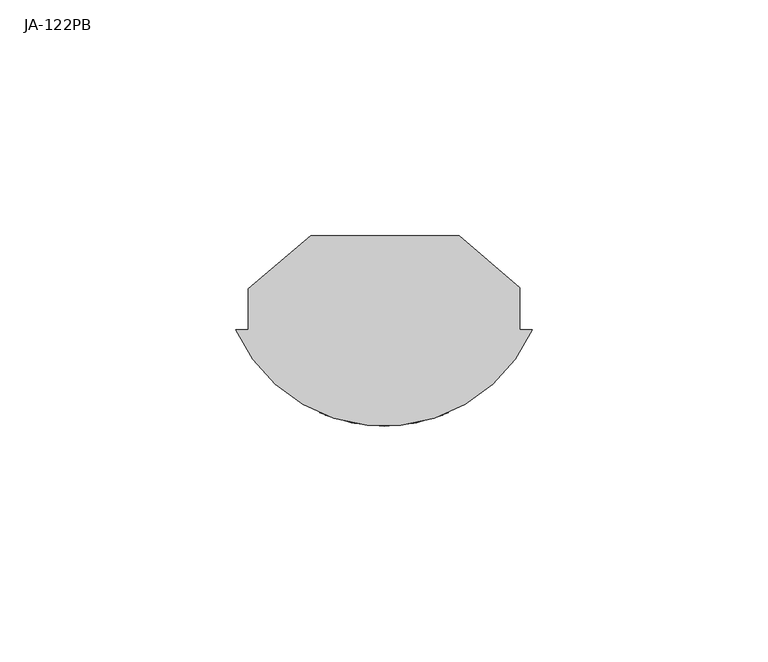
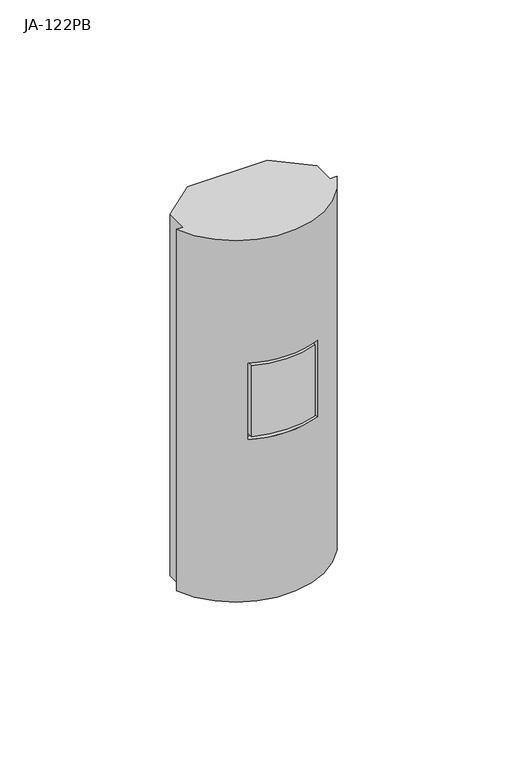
"""IFC4 building model written with IfcOpenShell, lengths in millimetres: proxy geometry, PIR detektory.CC : JA-122PB."""

from ifc_helpers import new_model, si_unit, frame, origin, place, context, project, spatial, circle_curve, source, transform, mapped, element, save
from ifc_brep_helpers import plane_surface, cylinder_surface, advanced_brep


def ja_122pb_a7b72314(model_context):
    return source(origin(), model_context, "Body", "AdvancedBrep", [
        advanced_brep(
        [(-31.5, -20.0, 95.0), (31.5, -20.0, 95.0), (28.8127665, -20.0, 95.0), (28.8127665, -11.0753807, 95.0), (15.9214911, 0.0, 95.0), (-15.5, 0.0, 95.0), (-28.8127665, -11.2358301, 95.0), (-28.8127665, -20.0, 95.0), (31.5, -20.0, -55.0), (-31.5, -20.0, -55.0), (-28.8127665, -20.0, -55.0), (-28.8127665, -11.2358301, -55.0), (-15.5, 0.0, -55.0), (15.9214911, 0.0, -55.0), (28.8127665, -11.0753807, -55.0), (28.8127665, -20.0, -55.0), (13.6633148, -37.6335605, 43.9278278), (13.6633148, -37.6335605, 12.194361), (-13.6633148, -37.6335605, 12.194361), (-13.6633148, -37.6335605, 43.9278278), (12.4566298, -38.127496, 13.401046), (12.4566298, -38.127496, 42.7211428), (-12.4566298, -38.127496, 42.7211428), (-12.4566298, -38.127496, 13.401046), (13.6633148, -35.7853445, 43.9278278), (13.6633148, -35.7853445, 12.194361), (12.4566298, -35.7853445, 13.401046), (12.4566298, -35.7853445, 42.7211428), (-13.6633148, -35.7853445, 12.194361), (-12.4566298, -35.7853445, 13.401046), (-13.6633148, -35.7853445, 43.9278278), (-12.4566298, -35.7853445, 42.7211428)],
        [
            (0, 1, circle_curve(frame((0.0, -5.975, 95.0), z_axis=(0.0, 0.0, 1.0), x_axis=(1.0, 0.0, 0.0)), 34.4811633)),
            (1, 2),
            (2, 3),
            (3, 4),
            (4, 5),
            (5, 6),
            (6, 7),
            (7, 0),
            (8, 9, circle_curve(frame((0.0, -5.975, -55.0), z_axis=(0.0, 0.0, -1.0), x_axis=(1.0, 0.0, 0.0)), 34.4811633)),
            (9, 10),
            (10, 11),
            (11, 12),
            (12, 13),
            (13, 14),
            (14, 15),
            (15, 8),
            (4, 13),
            (12, 5),
            (0, 9),
            (8, 1),
            (16, 17),
            (17, 18, circle_curve(frame((0.0, -5.975, 12.194361), z_axis=(0.0, 0.0, -1.0), x_axis=(1.0, 0.0, 0.0)), 34.4811633)),
            (18, 19),
            (19, 16, circle_curve(frame((0.0, -5.975, 43.9278278), z_axis=(0.0, 0.0, 1.0), x_axis=(1.0, 0.0, 0.0)), 34.4811633)),
            (20, 21),
            (21, 22, circle_curve(frame((0.0, -5.975, 42.7211428), z_axis=(0.0, 0.0, -1.0), x_axis=(1.0, 0.0, 0.0)), 34.4811633)),
            (22, 23),
            (23, 20, circle_curve(frame((0.0, -5.975, 13.401046), z_axis=(0.0, 0.0, 1.0), x_axis=(1.0, 0.0, 0.0)), 34.4811633)),
            (24, 25),
            (25, 17),
            (16, 24),
            (26, 27),
            (27, 21),
            (20, 26),
            (25, 28),
            (28, 18),
            (29, 26),
            (23, 29),
            (28, 30),
            (30, 19),
            (31, 29),
            (22, 31),
            (30, 24),
            (31, 27),
            (3, 14),
            (2, 15),
            (11, 6),
            (10, 7),
        ],
        [
            plane_surface(frame((-31.5, 0.0, 95.0), z_axis=(0.0, 0.0, 1.0), x_axis=(-1.0, 0.0, 0.0))),
            plane_surface(frame((-31.5, 0.0, -55.0), z_axis=(0.0, 0.0, -1.0), x_axis=(1.0, 0.0, 0.0))),
            plane_surface(frame((31.5, 0.0, 95.0), z_axis=(0.0, 1.0, 0.0), x_axis=(0.0, 0.0, -1.0))),
            cylinder_surface(frame((0.0, -5.975, -55.0), z_axis=(0.0, 0.0, 1.0), x_axis=(1.0, 0.0, 0.0)), 34.4811633),
            plane_surface(frame((13.6633148, -49.7858715, 43.9278278), z_axis=(-1.0, 0.0, 0.0), x_axis=(0.0, 0.0, -1.0))),
            plane_surface(frame((12.4566298, -35.7853445, 42.7211428), z_axis=(1.0, 0.0, 0.0), x_axis=(0.0, 0.0, -1.0))),
            plane_surface(frame((13.6633148, -49.7858715, 12.194361), z_axis=(0.0, 0.0, 1.0), x_axis=(-1.0, 0.0, 0.0))),
            plane_surface(frame((12.4566298, -35.7853445, 13.401046), z_axis=(0.0, 0.0, -1.0), x_axis=(-1.0, 0.0, 0.0))),
            plane_surface(frame((-13.6633148, -49.7858715, 12.194361), z_axis=(1.0, 0.0, 0.0), x_axis=(0.0, 0.0, 1.0))),
            plane_surface(frame((-12.4566298, -35.7853445, 13.401046), z_axis=(-1.0, 0.0, 0.0), x_axis=(0.0, 0.0, 1.0))),
            plane_surface(frame((-13.6633148, -49.7858715, 43.9278278), z_axis=(0.0, 0.0, -1.0), x_axis=(1.0, 0.0, 0.0))),
            plane_surface(frame((-13.6633148, -35.7853445, 43.9278278), z_axis=(0.0, -1.0, 0.0), x_axis=(1.0, 0.0, 0.0))),
            plane_surface(frame((-12.4566298, -35.7853445, 42.7211428), z_axis=(0.0, 0.0, 1.0), x_axis=(1.0, 0.0, 0.0))),
            plane_surface(frame((15.9214911, 0.0, 150.8080095), z_axis=(0.6516632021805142, 0.7585084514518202, 0.0), x_axis=(0.0, 0.0, -1.0))),
            plane_surface(frame((28.8127665, -11.0753807, 150.8080095), z_axis=(1.0, 0.0, 0.0), x_axis=(0.0, 0.0, -1.0))),
            plane_surface(frame((28.8127665, -20.0, 150.8080095), z_axis=(0.0, 1.0, 0.0), x_axis=(0.0, 0.0, -1.0))),
            plane_surface(frame((-28.8127665, -11.2358301, 150.8080095), z_axis=(-0.6449776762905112, 0.7642014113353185, 0.0), x_axis=(0.0, 0.0, -1.0))),
            plane_surface(frame((-28.8127665, -20.0, 150.8080095), z_axis=(-1.0, 0.0, 0.0), x_axis=(0.0, 0.0, -1.0))),
            plane_surface(frame((-31.5, -20.0, 150.8080095), z_axis=(0.0, 1.0, 0.0), x_axis=(0.0, 0.0, -1.0))),
        ],
        [
            (0, [[1, 2, 3, 4, 5, 6, 7, 8]]),
            (1, [[9, 10, 11, 12, 13, 14, 15, 16]]),
            (2, [[17, -13, 18, -5]]),
            (3, [[-1, 19, -9, 20], [21, 22, 23, 24]]),
            (3, [[25, 26, 27, 28]]),
            (4, [[29, 30, -21, 31]]),
            (5, [[32, 33, -25, 34]]),
            (6, [[35, 36, -22, -30]]),
            (7, [[37, -34, -28, 38]]),
            (8, [[39, 40, -23, -36]]),
            (9, [[41, -38, -27, 42]]),
            (10, [[43, -31, -24, -40]]),
            (11, [[-29, -43, -39, -35], [-32, -37, -41, 44]]),
            (12, [[-44, -42, -26, -33]]),
            (13, [[45, -14, -17, -4]]),
            (14, [[-45, -3, 46, -15]]),
            (15, [[-46, -2, -20, -16]]),
            (16, [[47, -6, -18, -12]]),
            (17, [[-47, -11, 48, -7]]),
            (18, [[-48, -10, -19, -8]]),
        ],
    ),
    ])


if __name__ == "__main__":
    model = new_model("IFC4")
    model_context = context("Model", 3, world=origin())
    ifc_project = project(units=[si_unit("LENGTHUNIT", "METRE", prefix="MILLI")], contexts=[model_context])
    site = spatial("IfcSite", under=ifc_project)
    building = spatial("IfcBuilding", under=site)
    placement = place(None, origin())
    ja_122pb_shape = ja_122pb_a7b72314(model_context)
    element("IfcBuildingElementProxy", 1, Name="PIR detektory.CC : JA-122PB", ObjectType="PIR detektory.CC : JA-122PB", at=placement, inside=building, context=model_context, shape_type="MappedRepresentation", body=[
        mapped(ja_122pb_shape, transform((0.0, 0.0, 0.0), x_axis=(1.0, 0.0, 0.0), y_axis=(0.0, 1.0, 0.0), z_axis=(0.0, 0.0, 1.0))),
    ])
    save(model, "model.ifc")
